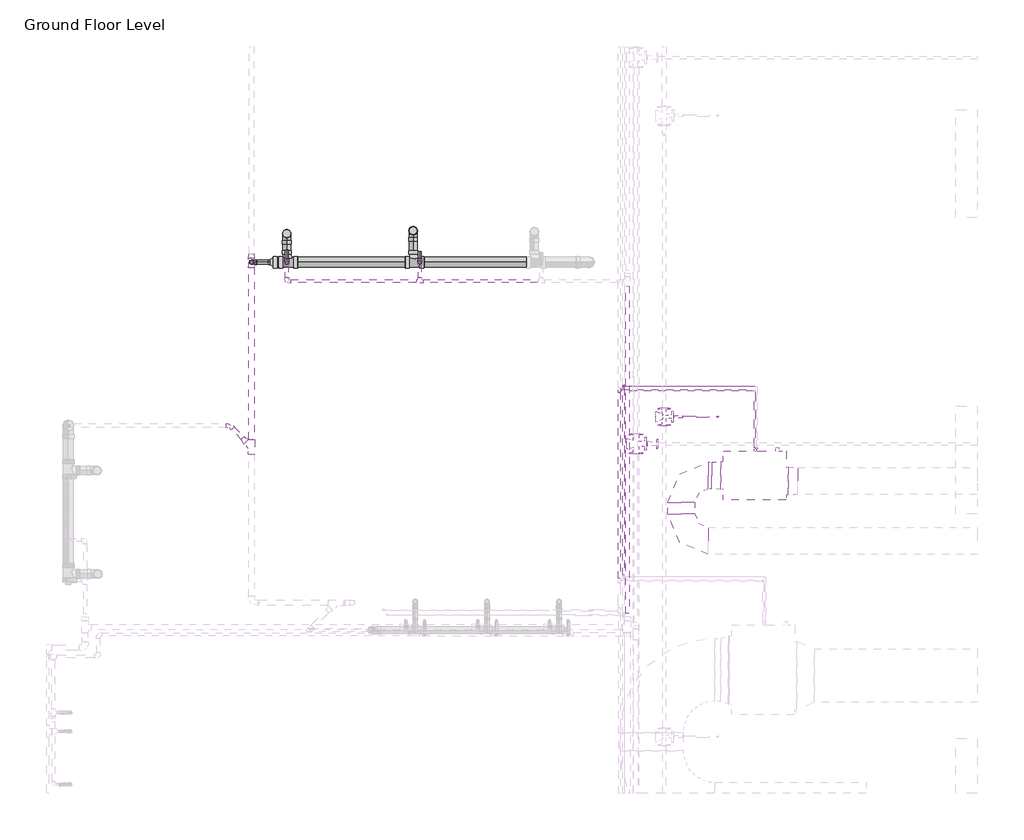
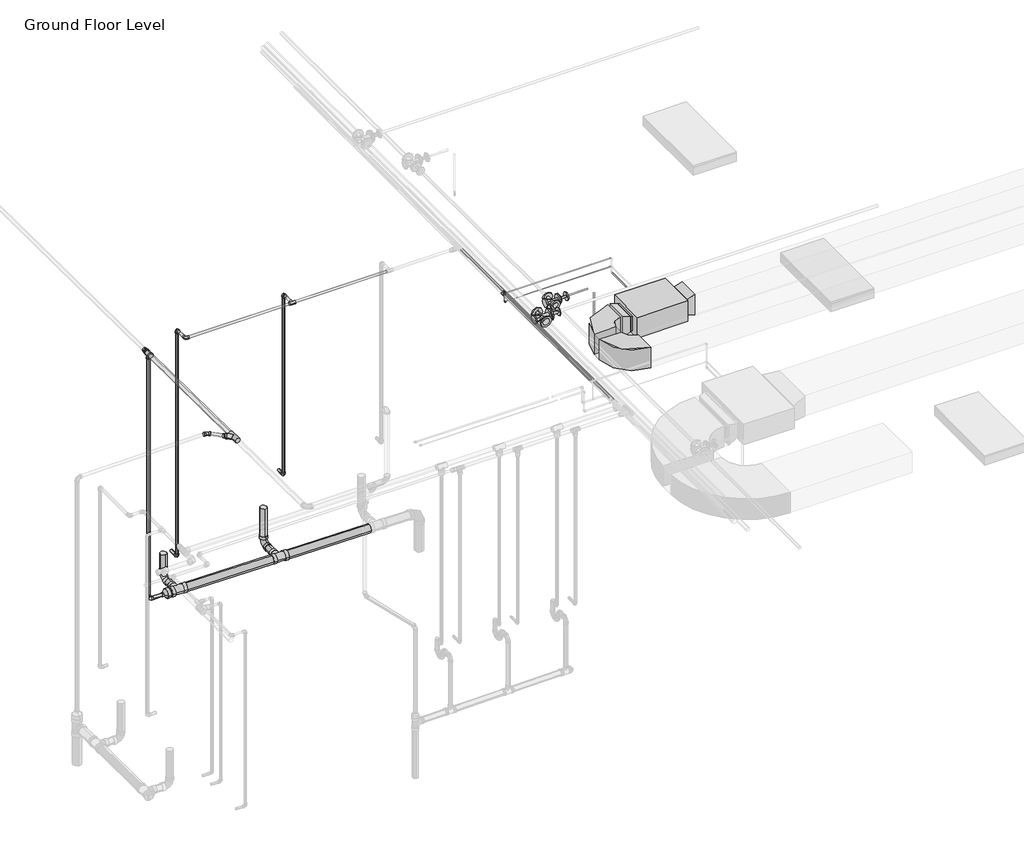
# One storey, part 19 of 66: 29 pipe segments, 26 pipe fittings, 4 duct fittings, 2 duct segments, 1 fire suppression terminal, 1 proxy.
"""IFC4 building model written with IfcOpenShell, lengths in millimetres."""

from ifc_helpers import new_model, si_unit, point, frame, frame_2d, origin, place, context, project, spatial, polyline, circle_curve, trimmed, segment, composite_curve, outline, extrude, transform, mapped, element, save
from components import fcu_daikin_iu_27d020f6, m_rectangular_elbow_radius_1_w_618da153, m_rectangular_transition_angle_45_degree_bfac0661, m_rectangular_transition_angle_45_degree_d4666cfa, m_sprinkler_pendent_15_mm_pendent_06fcbd8e, m_bend_pvc_sch_40_dwv_standard_a4b99d37, m_bend_pvc_sch_40_dwv_standard_877aed9a, m_bend_pvc_sch_40_dwv_standard_980e5ff7, m_elbow_generic_standard_2a704253, m_reducer_flanged_cs_class_150_standard_d42b2106, m_reducer_flanged_cs_class_150_standard_a7631c35, m_reducer_pvc_sch_40_dwv_standard_19331f3d, m_reducer_pvc_sch_40_dwv_standard_230e9924, m_reducer_pvc_sch_40_dwv_standard_312d928c, m_tee_generic_standard_5b2ed4d4, m_tee_generic_standard_5078887e, m_tee_pvc_sch_40_standard_151c2b90, m_tee_reducing_sanitary_pvc_sch_40_dwv_standard_b49161a9, m_tee_reducing_sanitary_pvc_sch_40_dwv_standard_ca98856a, m_tee_round_base_flanged_cs_class_150_standard_dd767e04, m_tee_round_base_flanged_cs_class_150_standard_7e5987a1, m_transition_generic_standard_44e35838, m_transition_generic_standard_2d362458, standard_517a5a8d, standard_72b35c3b, standard_c393d86d

model = new_model("IFC4")

# Units and contexts
model_context = context("Model", 3, world=origin())
ifc_project = project(units=[si_unit("LENGTHUNIT", "METRE", prefix="MILLI")], contexts=[model_context])

# Site, building, storey
site = spatial("IfcSite", under=ifc_project)
building = spatial("IfcBuilding", under=site)
storey = spatial("IfcBuildingStorey", under=building, Name="Ground Floor Level", Elevation=900.0)

# Proxy
placement = place(None, origin())
fcu_daikin_iu_shape = fcu_daikin_iu_27d020f6(model_context)
element("IfcBuildingElementProxy", 1, Name="FCU-DAIKIN IU : 2.3kW, 230V/50Hz/1Ph", ObjectType="FCU-DAIKIN IU : 2.3kW, 230V/50Hz/1Ph", at=placement, inside=storey, context=model_context, shape_type="MappedRepresentation", body=[
    mapped(fcu_daikin_iu_shape, transform((7003.8644074, -31136.6877703, 4080.0), x_axis=(0.0, 1.0, 0.0), y_axis=(-1.0, 0.0, 0.0), z_axis=(0.0, 0.0, 1.0))),
])

# Duct fittings
m_rectangular_elbow_radius_1_w_shape = m_rectangular_elbow_radius_1_w_618da153(model_context)
element("IfcDuctFitting", 2, ObjectType="M_Rectangular Elbow - Radius : 1 W", at=placement, inside=storey, context=model_context, shape_type="MappedRepresentation", body=[
    mapped(m_rectangular_elbow_radius_1_w_shape, transform((6188.4644074, -31136.6877703, 4221.2), x_axis=(-1.0, 0.0, 0.0), y_axis=(0.0, -1.0, 0.0), z_axis=(0.0, 0.0, 1.0))),
])
element("IfcDuctFitting", 3, ObjectType="M_Rectangular Elbow - Radius : 1 W", at=placement, inside=storey, context=model_context, shape_type="MappedRepresentation", body=[
    mapped(m_rectangular_elbow_radius_1_w_shape, transform((6188.4644074, -31864.7846466, 4221.2), x_axis=(0.0, -1.0, 0.0), y_axis=(1.0, 0.0, 0.0), z_axis=(0.0, 0.0, 1.0))),
])
m_rectangular_transition_angle_45_degree_shape = m_rectangular_transition_angle_45_degree_bfac0661(model_context)
element("IfcDuctFitting", 4, ObjectType="M_Rectangular Transition - Angle : 45 Degree", at=placement, inside=storey, context=model_context, shape_type="MappedRepresentation", body=[
    mapped(m_rectangular_transition_angle_45_degree_shape, transform((6628.4644074, -31136.6877703, 4221.2), x_axis=(-1.0, 0.0, 0.0), y_axis=(0.0, -1.0, 0.0), z_axis=(0.0, 0.0, 1.0))),
])
m_rectangular_transition_angle_45_degree_2_shape = m_rectangular_transition_angle_45_degree_d4666cfa(model_context)
element("IfcDuctFitting", 5, ObjectType="M_Rectangular Transition - Angle : 45 Degree", at=placement, inside=storey, context=model_context, shape_type="MappedRepresentation", body=[
    mapped(m_rectangular_transition_angle_45_degree_2_shape, transform((7379.2644074, -31200.1877703, 4245.9125), x_axis=(1.0, 0.0, 0.0), y_axis=(0.0, 1.0, 0.0), z_axis=(0.0, 0.0, 1.0))),
])

# Duct segments
element("IfcDuctSegment", 6, ObjectType="Radius Elbows / Taps", at=placement, inside=storey, context=model_context, shape_type="SweptSolid", body=[
    extrude(outline(polyline([(6525.0153563, -30986.6877703), (6525.0153563, -31286.6877703), (6488.4644074, -31286.6877703), (6488.4644074, -30986.6877703), (6525.0153563, -30986.6877703)])), frame((0.0, 0.0, 4071.2), z_axis=(0.0, 0.0, 1.0), x_axis=(1.0, 0.0, 0.0)), (0.0, 0.0, 1.0), 300.0),
])
element("IfcDuctSegment", 7, ObjectType="Radius Elbows / Taps", at=placement, inside=storey, context=model_context, shape_type="SweptSolid", body=[
    extrude(outline(polyline([(6038.4644074, -31436.6877703), (6338.4644074, -31436.6877703), (6338.4644074, -31564.7846466), (6038.4644074, -31564.7846466), (6038.4644074, -31436.6877703)])), frame((0.0, 0.0, 4071.2), z_axis=(0.0, 0.0, 1.0), x_axis=(1.0, 0.0, 0.0)), (0.0, 0.0, 1.0), 300.0),
])

# Fire suppression terminal
m_sprinkler_pendent_15_mm_pendent_shape = m_sprinkler_pendent_15_mm_pendent_06fcbd8e(model_context)
element("IfcFireSuppressionTerminal", 8, ObjectType="M_Sprinkler - Pendent : 15 mm Pendent", at=placement, inside=storey, context=model_context, shape_type="MappedRepresentation", body=[
    mapped(m_sprinkler_pendent_15_mm_pendent_shape, transform((6592.5481019, -30483.0742399, 3650.0), x_axis=(1.0, 0.0, 0.0), y_axis=(0.0, 1.0, 0.0), z_axis=(0.0, 0.0, 1.0))),
])

# Pipe fittings
m_bend_pvc_sch_40_dwv_standard_shape = m_bend_pvc_sch_40_dwv_standard_a4b99d37(model_context)
element("IfcPipeFitting", 9, ObjectType="M_Bend - PVC - Sch 40 - DWV : Standard", at=placement, inside=storey, context=model_context, shape_type="MappedRepresentation", body=[
    mapped(m_bend_pvc_sch_40_dwv_standard_shape, transform((3203.6056556, -28411.2419494, 467.9903626), x_axis=(0.0, 0.0, -1.0), y_axis=(0.0, -1.0, 0.0), z_axis=(-1.0, 0.0, 0.0))),
])
element("IfcPipeFitting", 10, ObjectType="M_Bend - PVC - Sch 40 - DWV : Standard", at=placement, inside=storey, context=model_context, shape_type="MappedRepresentation", body=[
    mapped(m_bend_pvc_sch_40_dwv_standard_shape, transform((1796.7972875, -28443.3871738, 482.0584463), x_axis=(0.0, 0.0, -1.0), y_axis=(0.0, -1.0, 0.0), z_axis=(-1.0, 0.0, 0.0))),
])
m_bend_pvc_sch_40_dwv_standard_2_shape = m_bend_pvc_sch_40_dwv_standard_877aed9a(model_context)
element("IfcPipeFitting", 11, ObjectType="M_Bend - PVC - Sch 40 - DWV : Standard", at=placement, inside=storey, context=model_context, shape_type="MappedRepresentation", body=[
    mapped(m_bend_pvc_sch_40_dwv_standard_2_shape, transform((1404.8669708, -28761.5689421, 485.9777495), x_axis=(-0.9999500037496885, 0.0, 0.009999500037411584), y_axis=(0.009999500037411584, 0.0, 0.9999500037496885), z_axis=(0.0, 1.0, 0.0))),
])
m_bend_pvc_sch_40_dwv_standard_3_shape = m_bend_pvc_sch_40_dwv_standard_980e5ff7(model_context)
element("IfcPipeFitting", 12, ObjectType="M_Bend - PVC - Sch 40 - DWV : Standard", at=placement, inside=storey, context=model_context, shape_type="MappedRepresentation", body=[
    mapped(m_bend_pvc_sch_40_dwv_standard_3_shape, transform((1167.6346326, -30581.7541446, 4102.0377498), x_axis=(-0.7070204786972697, 0.7069851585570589, -0.017147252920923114), y_axis=(-0.7071225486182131, -0.7070845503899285, 0.0030232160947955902), z_axis=(-0.009987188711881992, 0.014262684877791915, 0.9998484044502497))),
])
m_elbow_generic_standard_shape = m_elbow_generic_standard_2a704253(model_context)
element("IfcPipeFitting", 13, ObjectType="M_Elbow - Generic : Standard", at=placement, inside=storey, context=model_context, shape_type="MappedRepresentation", body=[
    mapped(m_elbow_generic_standard_shape, transform((5543.9904113, -30144.9316538, 4230.8), x_axis=(0.0, 0.0, -1.0), y_axis=(1.0, 0.0, 0.0), z_axis=(0.0, -1.0, 0.0))),
])
m_reducer_flanged_cs_class_150_standard_shape = m_reducer_flanged_cs_class_150_standard_d42b2106(model_context)
element("IfcPipeFitting", 14, ObjectType="M_Reducer - Flanged - CS - Class 150 : Standard", at=placement, inside=storey, context=model_context, shape_type="MappedRepresentation", body=[
    mapped(m_reducer_flanged_cs_class_150_standard_shape, transform((6097.7664057, -30483.0742399, 4291.2754753), x_axis=(1.0, 0.0, 0.0), y_axis=(0.0, 0.0, -1.0), z_axis=(0.0, 1.0, 0.0))),
])
m_reducer_flanged_cs_class_150_standard_2_shape = m_reducer_flanged_cs_class_150_standard_a7631c35(model_context)
element("IfcPipeFitting", 15, ObjectType="M_Reducer - Flanged - CS - Class 150 : Standard", at=placement, inside=storey, context=model_context, shape_type="MappedRepresentation", body=[
    mapped(m_reducer_flanged_cs_class_150_standard_2_shape, transform((5798.6174894, -30785.1783804, 4347.5), x_axis=(1.0, 0.0, 0.0), y_axis=(0.0, 0.0, 1.0), z_axis=(0.0, -1.0, 0.0))),
])
m_reducer_pvc_sch_40_dwv_standard_shape = m_reducer_pvc_sch_40_dwv_standard_19331f3d(model_context)
element("IfcPipeFitting", 16, ObjectType="M_Reducer - PVC - Sch 40 - DWV : Standard", at=placement, inside=storey, context=model_context, shape_type="MappedRepresentation", body=[
    mapped(m_reducer_pvc_sch_40_dwv_standard_shape, transform((1692.863236, -28761.5689421, 483.0977868), x_axis=(-0.9999500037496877, 0.0, 0.00999950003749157), y_axis=(0.0, -1.0000000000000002, 0.0), z_axis=(0.00999950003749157, 0.0, 0.9999500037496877))),
])
m_reducer_pvc_sch_40_dwv_standard_2_shape = m_reducer_pvc_sch_40_dwv_standard_230e9924(model_context)
element("IfcPipeFitting", 17, ObjectType="M_Reducer - PVC - Sch 40 - DWV : Standard", at=placement, inside=storey, context=model_context, shape_type="MappedRepresentation", body=[
    mapped(m_reducer_pvc_sch_40_dwv_standard_2_shape, transform((1404.8829692, -28664.0719039, 4086.0016836), x_axis=(0.0, -0.9999500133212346, 0.00999854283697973), y_axis=(1.0, 0.0, 0.0), z_axis=(0.0, 0.00999854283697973, 0.9999500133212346))),
])
m_reducer_pvc_sch_40_dwv_standard_3_shape = m_reducer_pvc_sch_40_dwv_standard_312d928c(model_context)
element("IfcPipeFitting", 18, ObjectType="M_Reducer - PVC - Sch 40 - DWV : Standard", at=placement, inside=storey, context=model_context, shape_type="MappedRepresentation", body=[
    mapped(m_reducer_pvc_sch_40_dwv_standard_3_shape, transform((1345.2677086, -30759.3781518, 4106.4029379), x_axis=(-0.7070174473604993, 0.7069881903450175, -0.017147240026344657), y_axis=(-0.7070524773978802, -0.7071546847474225, -0.003007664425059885), z_axis=(-0.014252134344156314, 0.009997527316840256, 0.9998484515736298))),
])
m_tee_generic_standard_shape = m_tee_generic_standard_5b2ed4d4(model_context)
element("IfcPipeFitting", 19, ObjectType="M_Tee - Generic : Standard", at=placement, inside=storey, context=model_context, shape_type="MappedRepresentation", body=[
    mapped(m_tee_generic_standard_shape, transform((5543.9904113, -30144.9316538, 4377.5), x_axis=(0.0, -1.0, 0.0), y_axis=(0.0, 0.0, 1.0), z_axis=(-1.0, 0.0, 0.0))),
])
m_tee_generic_standard_2_shape = m_tee_generic_standard_5078887e(model_context)
element("IfcPipeFitting", 20, ObjectType="M_Tee - Generic : Standard", at=placement, inside=storey, context=model_context, shape_type="MappedRepresentation", body=[
    mapped(m_tee_generic_standard_2_shape, transform((5497.8951827, -30187.4513653, 4390.0), x_axis=(0.0, -1.0, 0.0), y_axis=(-1.0, 0.0, 0.0), z_axis=(0.0, 0.0, -1.0))),
])
m_tee_pvc_sch_40_standard_shape = m_tee_pvc_sch_40_standard_151c2b90(model_context)
element("IfcPipeFitting", 21, ObjectType="M_Tee - PVC - Sch 40 : Standard", at=placement, inside=storey, context=model_context, shape_type="MappedRepresentation", body=[
    mapped(m_tee_pvc_sch_40_standard_shape, transform((1404.8829692, -30818.9909454, 4107.8487823), x_axis=(0.0, -0.9999500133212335, 0.009998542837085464), y_axis=(0.9998984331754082, 0.0001425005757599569, 0.014251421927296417), z_axis=(-0.014252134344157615, 0.009997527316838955, 0.9998484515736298))),
])
m_tee_reducing_sanitary_pvc_sch_40_dwv_standard_shape = m_tee_reducing_sanitary_pvc_sch_40_dwv_standard_b49161a9(model_context)
element("IfcPipeFitting", 22, ObjectType="M_Tee Reducing Sanitary - PVC - Sch 40 - DWV : Standard", at=placement, inside=storey, context=model_context, shape_type="MappedRepresentation", body=[
    mapped(m_tee_reducing_sanitary_pvc_sch_40_dwv_standard_shape, transform((3203.6056556, -28761.5689421, 467.9903626), x_axis=(-0.9999500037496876, 0.0, 0.00999950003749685), y_axis=(0.0, -1.0, 0.0), z_axis=(0.00999950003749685, 0.0, 0.9999500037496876))),
])
element("IfcPipeFitting", 23, ObjectType="M_Tee Reducing Sanitary - PVC - Sch 40 - DWV : Standard", at=placement, inside=storey, context=model_context, shape_type="MappedRepresentation", body=[
    mapped(m_tee_reducing_sanitary_pvc_sch_40_dwv_standard_shape, transform((1796.7972875, -28761.5689421, 482.0584463), x_axis=(-0.9999500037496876, 0.0, 0.009999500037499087), y_axis=(0.0, -1.0000000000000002, 0.0), z_axis=(0.009999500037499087, 0.0, 0.9999500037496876))),
])
m_tee_reducing_sanitary_pvc_sch_40_dwv_standard_2_shape = m_tee_reducing_sanitary_pvc_sch_40_dwv_standard_ca98856a(model_context)
element("IfcPipeFitting", 24, ObjectType="M_Tee Reducing Sanitary - PVC - Sch 40 - DWV : Standard", at=placement, inside=storey, context=model_context, shape_type="MappedRepresentation", body=[
    mapped(m_tee_reducing_sanitary_pvc_sch_40_dwv_standard_2_shape, transform((1404.8829692, -28761.5849374, 4087.2766918), x_axis=(0.0, 0.9999500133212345, -0.009998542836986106), y_axis=(0.0, 0.009998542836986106, 0.9999500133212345), z_axis=(1.0, 0.0, 0.0))),
])
m_tee_round_base_flanged_cs_class_150_standard_shape = m_tee_round_base_flanged_cs_class_150_standard_dd767e04(model_context)
element("IfcPipeFitting", 25, ObjectType="M_Tee Round Base - Flanged - CS - Class 150 : Standard", at=placement, inside=storey, context=model_context, shape_type="MappedRepresentation", body=[
    mapped(m_tee_round_base_flanged_cs_class_150_standard_shape, transform((5684.6174894, -30785.1783804, 4347.5), x_axis=(0.0, -1.0, 0.0), y_axis=(-1.0, 0.0, 0.0), z_axis=(0.0, 0.0, -1.0))),
])
m_tee_round_base_flanged_cs_class_150_standard_2_shape = m_tee_round_base_flanged_cs_class_150_standard_7e5987a1(model_context)
element("IfcPipeFitting", 26, ObjectType="M_Tee Round Base - Flanged - CS - Class 150 : Standard", at=placement, inside=storey, context=model_context, shape_type="MappedRepresentation", body=[
    mapped(m_tee_round_base_flanged_cs_class_150_standard_2_shape, transform((5997.057812, -30483.0742399, 4291.0943441), x_axis=(0.0, 1.0, 0.0), y_axis=(-1.0, 0.0, 0.0), z_axis=(0.0, 0.0, 1.0))),
])
m_transition_generic_standard_shape = m_transition_generic_standard_44e35838(model_context)
element("IfcPipeFitting", 27, ObjectType="M_Transition - Generic : Standard", at=placement, inside=storey, context=model_context, shape_type="MappedRepresentation", body=[
    mapped(m_transition_generic_standard_shape, transform((5521.7076827, -30187.4513653, 4390.0), x_axis=(1.0, 0.0, 0.0), y_axis=(0.0, 1.0, 0.0), z_axis=(0.0, 0.0, 1.0))),
])
m_transition_generic_standard_2_shape = m_transition_generic_standard_2d362458(model_context)
element("IfcPipeFitting", 28, ObjectType="M_Transition - Generic : Standard", at=placement, inside=storey, context=model_context, shape_type="MappedRepresentation", body=[
    mapped(m_transition_generic_standard_2_shape, transform((5543.9904113, -30144.9316538, 4356.8625), x_axis=(0.0, 0.0, -1.0), y_axis=(1.0, 0.0, 0.0), z_axis=(0.0, -1.0, 0.0))),
])
standard_shape = standard_517a5a8d(model_context)
element("IfcPipeFitting", 29, ObjectType="M_Elbow - CPVC - Sch 40 : Standard", at=placement, inside=storey, context=model_context, shape_type="MappedRepresentation", body=[
    mapped(standard_shape, transform((3277.0059257, -28764.7846466, 1655.0), x_axis=(0.0, -1.0, 0.0), y_axis=(0.0, 0.0, 1.0), z_axis=(-1.0, 0.0, 0.0))),
])
element("IfcPipeFitting", 30, ObjectType="M_Elbow - CPVC - Sch 40 : Standard", at=placement, inside=storey, context=model_context, shape_type="MappedRepresentation", body=[
    mapped(standard_shape, transform((3277.0059257, -28764.7846466, 4300.0), x_axis=(0.0, 0.0, 1.0), y_axis=(0.0, -1.0, 0.0), z_axis=(1.0, 0.0, 0.0))),
])
element("IfcPipeFitting", 31, ObjectType="M_Elbow - CPVC - Sch 40 : Standard", at=placement, inside=storey, context=model_context, shape_type="MappedRepresentation", body=[
    mapped(standard_shape, transform((1796.7587914, -28974.7846466, 4300.0), x_axis=(0.0, -1.0, 0.0), y_axis=(1.0, 0.0, 0.0), z_axis=(0.0, 0.0, 1.0))),
])
element("IfcPipeFitting", 32, ObjectType="M_Elbow - CPVC - Sch 40 : Standard", at=placement, inside=storey, context=model_context, shape_type="MappedRepresentation", body=[
    mapped(standard_shape, transform((1796.7587914, -28769.5558494, 4300.0), x_axis=(0.0, 0.0, 1.0), y_axis=(0.0, -1.0, 0.0), z_axis=(1.0, 0.0, 0.0))),
])
standard_2_shape = standard_72b35c3b(model_context)
element("IfcPipeFitting", 33, ObjectType="M_Tee - CPVC - Sch 40 : Standard", at=placement, inside=storey, context=model_context, shape_type="MappedRepresentation", body=[
    mapped(standard_2_shape, transform((3277.0059257, -28974.7846466, 4300.0), x_axis=(1.0, 0.0, 0.0), y_axis=(0.0, -1.0, 0.0), z_axis=(0.0, 0.0, -1.0))),
])
standard_3_shape = standard_c393d86d(model_context)
element("IfcPipeFitting", 34, ObjectType="M_Elbow - CPVC - Sch 40 : Standard", at=placement, inside=storey, context=model_context, shape_type="MappedRepresentation", body=[
    mapped(standard_3_shape, transform((1796.7587914, -28769.5558494, 983.5), x_axis=(0.0, -0.9999999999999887, 1.506625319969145e-07), y_axis=(0.0, 1.506625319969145e-07, 0.9999999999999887), z_axis=(-1.0, 0.0, 0.0))),
])

# Pipe segments
element("IfcPipeSegment", 35, ObjectType="CPVC", at=placement, inside=storey, context=model_context, shape_type="SweptSolid", body=[
    extrude(outline(composite_curve([segment(trimmed(circle_curve(frame_2d((-28974.7846466, 4300.0)), 16.7005), [point((-28958.0841466, 4300.0))], [point((-28974.7846466, 4283.2995))], False, "CARTESIAN"), True, "CONTINUOUS"), segment(trimmed(circle_curve(frame_2d((-28974.7846466, 4300.0)), 16.7005), [point((-28974.7846466, 4283.2995))], [point((-28991.4851466, 4300.0))], False, "CARTESIAN"), True, "CONTINUOUS"), segment(trimmed(circle_curve(frame_2d((-28974.7846466, 4300.0)), 16.7005), [point((-28991.4851466, 4300.0))], [point((-28974.7846466, 4316.7005))], False, "CARTESIAN"), True, "CONTINUOUS"), segment(trimmed(circle_curve(frame_2d((-28974.7846466, 4300.0)), 16.7005), [point((-28974.7846466, 4316.7005))], [point((-28958.0841466, 4300.0))], False, "CARTESIAN"), True, "CONTINUOUS")], self_intersect=False)), frame((1840.0213414, 0.0, 0.0), z_axis=(1.0, 0.0, 0.0), x_axis=(0.0, 1.0, 0.0)), (0.0, 0.0, 1.0), 1397.2843843),
])
element("IfcPipeSegment", 36, ObjectType="CPVC", at=placement, inside=storey, context=model_context, shape_type="SweptSolid", body=[
    extrude(outline(composite_curve([segment(trimmed(circle_curve(frame_2d((1655.0, 3277.0059257)), 16.7005), [point((1655.0, 3260.3054257))], [point((1638.2995, 3277.0059257))], False, "CARTESIAN"), True, "CONTINUOUS"), segment(trimmed(circle_curve(frame_2d((1655.0, 3277.0059257)), 16.7005), [point((1638.2995, 3277.0059257))], [point((1655.0, 3293.7064257))], False, "CARTESIAN"), True, "CONTINUOUS"), segment(trimmed(circle_curve(frame_2d((1655.0, 3277.0059257)), 16.7005), [point((1655.0, 3293.7064257))], [point((1671.7005, 3277.0059257))], False, "CARTESIAN"), True, "CONTINUOUS"), segment(trimmed(circle_curve(frame_2d((1655.0, 3277.0059257)), 16.7005), [point((1671.7005, 3277.0059257))], [point((1655.0, 3260.3054257))], False, "CARTESIAN"), True, "CONTINUOUS")], self_intersect=False)), frame((0.0, -28721.5220966, 0.0), z_axis=(0.0, 1.0, 0.0), x_axis=(0.0, 0.0, 1.0)), (0.0, 0.0, 1.0), 76.73745),
])
element("IfcPipeSegment", 37, ObjectType="CPVC", at=placement, inside=storey, context=model_context, shape_type="SweptSolid", body=[
    extrude(outline(composite_curve([segment(trimmed(circle_curve(frame_2d((4300.0, 3277.0059257)), 16.7005), [point((4300.0, 3293.7064257))], [point((4316.7005, 3277.0059257))], False, "CARTESIAN"), True, "CONTINUOUS"), segment(trimmed(circle_curve(frame_2d((4300.0, 3277.0059257)), 16.7005), [point((4316.7005, 3277.0059257))], [point((4300.0, 3260.3054257))], False, "CARTESIAN"), True, "CONTINUOUS"), segment(trimmed(circle_curve(frame_2d((4300.0, 3277.0059257)), 16.7005), [point((4300.0, 3260.3054257))], [point((4283.2995, 3277.0059257))], False, "CARTESIAN"), True, "CONTINUOUS"), segment(trimmed(circle_curve(frame_2d((4300.0, 3277.0059257)), 16.7005), [point((4283.2995, 3277.0059257))], [point((4300.0, 3293.7064257))], False, "CARTESIAN"), True, "CONTINUOUS")], self_intersect=False)), frame((0.0, -28935.0844466, 0.0), z_axis=(0.0, 1.0, 0.0), x_axis=(0.0, 0.0, 1.0)), (0.0, 0.0, 1.0), 127.03725),
])
element("IfcPipeSegment", 38, ObjectType="CPVC", at=placement, inside=storey, context=model_context, shape_type="SweptSolid", body=[
    extrude(outline(composite_curve([segment(trimmed(circle_curve(frame_2d((3277.0059257, -28764.7846466)), 16.7005), [point((3260.3054257, -28764.7846466))], [point((3277.0059257, -28748.0841466))], False, "CARTESIAN"), True, "CONTINUOUS"), segment(trimmed(circle_curve(frame_2d((3277.0059257, -28764.7846466)), 16.7005), [point((3277.0059257, -28748.0841466))], [point((3293.7064257, -28764.7846466))], False, "CARTESIAN"), True, "CONTINUOUS"), segment(trimmed(circle_curve(frame_2d((3277.0059257, -28764.7846466)), 16.7005), [point((3293.7064257, -28764.7846466))], [point((3277.0059257, -28781.4851466))], False, "CARTESIAN"), True, "CONTINUOUS"), segment(trimmed(circle_curve(frame_2d((3277.0059257, -28764.7846466)), 16.7005), [point((3277.0059257, -28781.4851466))], [point((3260.3054257, -28764.7846466))], False, "CARTESIAN"), True, "CONTINUOUS")], self_intersect=False)), frame((0.0, 0.0, 1698.26255), z_axis=(0.0, 0.0, 1.0), x_axis=(1.0, 0.0, 0.0)), (0.0, 0.0, 1.0), 2558.4749),
])
element("IfcPipeSegment", 39, ObjectType="CPVC", at=placement, inside=storey, context=model_context, shape_type="SweptSolid", body=[
    extrude(outline(composite_curve([segment(trimmed(circle_curve(frame_2d((-28974.7846466, 4300.0)), 16.7005), [point((-28958.0841466, 4300.0))], [point((-28974.7846466, 4283.2995))], False, "CARTESIAN"), True, "CONTINUOUS"), segment(trimmed(circle_curve(frame_2d((-28974.7846466, 4300.0)), 16.7005), [point((-28974.7846466, 4283.2995))], [point((-28991.4851466, 4300.0))], False, "CARTESIAN"), True, "CONTINUOUS"), segment(trimmed(circle_curve(frame_2d((-28974.7846466, 4300.0)), 16.7005), [point((-28991.4851466, 4300.0))], [point((-28974.7846466, 4316.7005))], False, "CARTESIAN"), True, "CONTINUOUS"), segment(trimmed(circle_curve(frame_2d((-28974.7846466, 4300.0)), 16.7005), [point((-28974.7846466, 4316.7005))], [point((-28958.0841466, 4300.0))], False, "CARTESIAN"), True, "CONTINUOUS")], self_intersect=False)), frame((3316.7061257, 0.0, 0.0), z_axis=(1.0, 0.0, 0.0), x_axis=(0.0, 1.0, 0.0)), (0.0, 0.0, 1.0), 1270.7089625),
])
element("IfcPipeSegment", 40, ObjectType="CPVC", at=placement, inside=storey, context=model_context, shape_type="SweptSolid", body=[
    extrude(outline(composite_curve([segment(trimmed(circle_curve(frame_2d((983.4999789, 1796.7587914)), 16.7005), [point((983.4999789, 1780.0582914))], [point((966.7994789, 1796.7587914))], False, "CARTESIAN"), True, "CONTINUOUS"), segment(trimmed(circle_curve(frame_2d((983.4999789, 1796.7587914)), 16.7005), [point((966.7994789, 1796.7587914))], [point((983.4999789, 1813.4592914))], False, "CARTESIAN"), True, "CONTINUOUS"), segment(trimmed(circle_curve(frame_2d((983.4999789, 1796.7587914)), 16.7005), [point((983.4999789, 1813.4592914))], [point((1000.2004789, 1796.7587914))], False, "CARTESIAN"), True, "CONTINUOUS"), segment(trimmed(circle_curve(frame_2d((983.4999789, 1796.7587914)), 16.7005), [point((1000.2004789, 1796.7587914))], [point((983.4999789, 1780.0582914))], False, "CARTESIAN"), True, "CONTINUOUS")], self_intersect=False)), frame((0.0, -28726.2933025, 0.0), z_axis=(0.0, 1.0, 0.0), x_axis=(0.0, 0.0, 1.0)), (0.0, 0.0, 1.0), 96.7374532),
])
element("IfcPipeSegment", 41, ObjectType="CPVC", at=placement, inside=storey, context=model_context, shape_type="SweptSolid", body=[
    extrude(outline(composite_curve([segment(trimmed(circle_curve(frame_2d((4300.0, 1796.7587914)), 16.7005), [point((4300.0, 1813.4592914))], [point((4316.7005, 1796.7587914))], False, "CARTESIAN"), True, "CONTINUOUS"), segment(trimmed(circle_curve(frame_2d((4300.0, 1796.7587914)), 16.7005), [point((4316.7005, 1796.7587914))], [point((4300.0, 1780.0582914))], False, "CARTESIAN"), True, "CONTINUOUS"), segment(trimmed(circle_curve(frame_2d((4300.0, 1796.7587914)), 16.7005), [point((4300.0, 1780.0582914))], [point((4283.2995, 1796.7587914))], False, "CARTESIAN"), True, "CONTINUOUS"), segment(trimmed(circle_curve(frame_2d((4300.0, 1796.7587914)), 16.7005), [point((4283.2995, 1796.7587914))], [point((4300.0, 1813.4592914))], False, "CARTESIAN"), True, "CONTINUOUS")], self_intersect=False)), frame((0.0, -28931.5220966, 0.0), z_axis=(0.0, 1.0, 0.0), x_axis=(0.0, 0.0, 1.0)), (0.0, 0.0, 1.0), 118.7036973),
])
element("IfcPipeSegment", 42, ObjectType="CPVC", at=placement, inside=storey, context=model_context, shape_type="SweptSolid", body=[
    extrude(outline(composite_curve([segment(trimmed(circle_curve(frame_2d((1796.7587914, -28769.5558494)), 16.7005), [point((1780.0582914, -28769.5558494))], [point((1796.7587914, -28752.8553494))], False, "CARTESIAN"), True, "CONTINUOUS"), segment(trimmed(circle_curve(frame_2d((1796.7587914, -28769.5558494)), 16.7005), [point((1796.7587914, -28752.8553494))], [point((1813.4592914, -28769.5558494))], False, "CARTESIAN"), True, "CONTINUOUS"), segment(trimmed(circle_curve(frame_2d((1796.7587914, -28769.5558494)), 16.7005), [point((1813.4592914, -28769.5558494))], [point((1796.7587914, -28786.2563494))], False, "CARTESIAN"), True, "CONTINUOUS"), segment(trimmed(circle_curve(frame_2d((1796.7587914, -28769.5558494)), 16.7005), [point((1796.7587914, -28786.2563494))], [point((1780.0582914, -28769.5558494))], False, "CARTESIAN"), True, "CONTINUOUS")], self_intersect=False)), frame((0.0, 0.0, 1026.7625468), z_axis=(0.0, 0.0, 1.0), x_axis=(1.0, 0.0, 0.0)), (0.0, 0.0, 1.0), 3229.9749032),
])
element("IfcPipeSegment", 43, ObjectType="CPVC", at=placement, inside=storey, context=model_context, shape_type="SweptSolid", body=[
    extrude(outline(composite_curve([segment(trimmed(circle_curve(frame_2d((4300.0, 5589.646628)), 21.082), [point((4300.0, 5568.564628))], [point((4278.918, 5589.646628))], False, "CARTESIAN"), True, "CONTINUOUS"), segment(trimmed(circle_curve(frame_2d((4300.0, 5589.646628)), 21.082), [point((4278.918, 5589.646628))], [point((4300.0, 5610.728628))], False, "CARTESIAN"), True, "CONTINUOUS"), segment(trimmed(circle_curve(frame_2d((4300.0, 5589.646628)), 21.082), [point((4300.0, 5610.728628))], [point((4321.082, 5589.646628))], False, "CARTESIAN"), True, "CONTINUOUS"), segment(trimmed(circle_curve(frame_2d((4300.0, 5589.646628)), 21.082), [point((4321.082, 5589.646628))], [point((4300.0, 5568.564628))], False, "CARTESIAN"), True, "CONTINUOUS")], self_intersect=False)), frame((0.0, -32672.9715951, 0.0), z_axis=(0.0, 1.0, 0.0), x_axis=(0.0, 0.0, 1.0)), (0.0, 0.0, 1.0), 3644.2119485),
])
element("IfcPipeSegment", 44, ObjectType="Copper", at=placement, inside=storey, context=model_context, shape_type="SweptSolid", body=[
    extrude(outline(composite_curve([segment(trimmed(circle_curve(frame_2d((-30187.4513653, 4390.0)), 6.5), [point((-30193.9513653, 4390.0))], [point((-30187.4513653, 4396.5))], False, "CARTESIAN"), True, "CONTINUOUS"), segment(trimmed(circle_curve(frame_2d((-30187.4513653, 4390.0)), 6.5), [point((-30187.4513653, 4396.5))], [point((-30180.9513653, 4390.0))], False, "CARTESIAN"), True, "CONTINUOUS"), segment(trimmed(circle_curve(frame_2d((-30187.4513653, 4390.0)), 6.5), [point((-30180.9513653, 4390.0))], [point((-30187.4513653, 4383.5))], False, "CARTESIAN"), True, "CONTINUOUS"), segment(trimmed(circle_curve(frame_2d((-30187.4513653, 4390.0)), 6.5), [point((-30187.4513653, 4383.5))], [point((-30193.9513653, 4390.0))], False, "CARTESIAN"), True, "CONTINUOUS")], self_intersect=False)), frame((5527.2639327, 0.0, 0.0), z_axis=(1.0, 0.0, 0.0), x_axis=(0.0, 1.0, 0.0)), (0.0, 0.0, 1.0), 1462.3129748),
])
element("IfcPipeSegment", 45, ObjectType="Copper", at=placement, inside=storey, context=model_context, shape_type="SweptSolid", body=[
    extrude(outline(composite_curve([segment(trimmed(circle_curve(frame_2d((4390.0, 5497.8951827)), 9.75), [point((4390.0, 5507.6451827))], [point((4399.75, 5497.8951827))], False, "CARTESIAN"), True, "CONTINUOUS"), segment(trimmed(circle_curve(frame_2d((4390.0, 5497.8951827)), 9.75), [point((4399.75, 5497.8951827))], [point((4390.0, 5488.1451827))], False, "CARTESIAN"), True, "CONTINUOUS"), segment(trimmed(circle_curve(frame_2d((4390.0, 5497.8951827)), 9.75), [point((4390.0, 5488.1451827))], [point((4380.25, 5497.8951827))], False, "CARTESIAN"), True, "CONTINUOUS"), segment(trimmed(circle_curve(frame_2d((4390.0, 5497.8951827)), 9.75), [point((4380.25, 5497.8951827))], [point((4390.0, 5507.6451827))], False, "CARTESIAN"), True, "CONTINUOUS")], self_intersect=False)), frame((0.0, -32283.6388653, 0.0), z_axis=(0.0, 1.0, 0.0), x_axis=(0.0, 0.0, 1.0)), (0.0, 0.0, 1.0), 2072.375),
])
element("IfcPipeSegment", 46, ObjectType="Copper", at=placement, inside=storey, context=model_context, shape_type="SweptSolid", body=[
    extrude(outline(composite_curve([segment(trimmed(circle_curve(frame_2d((4180.0, 7003.8644074)), 6.5), [point((4180.0, 6997.3644074))], [point((4173.5, 7003.8644074))], False, "CARTESIAN"), True, "CONTINUOUS"), segment(trimmed(circle_curve(frame_2d((4180.0, 7003.8644074)), 6.5), [point((4173.5, 7003.8644074))], [point((4180.0, 7010.3644074))], False, "CARTESIAN"), True, "CONTINUOUS"), segment(trimmed(circle_curve(frame_2d((4180.0, 7003.8644074)), 6.5), [point((4180.0, 7010.3644074))], [point((4186.5, 7003.8644074))], False, "CARTESIAN"), True, "CONTINUOUS"), segment(trimmed(circle_curve(frame_2d((4180.0, 7003.8644074)), 6.5), [point((4186.5, 7003.8644074))], [point((4180.0, 6997.3644074))], False, "CARTESIAN"), True, "CONTINUOUS")], self_intersect=False)), frame((0.0, -30823.5877703, 0.0), z_axis=(0.0, 1.0, 0.0), x_axis=(0.0, 0.0, 1.0)), (0.0, 0.0, 1.0), 621.8489049),
])
element("IfcPipeSegment", 47, ObjectType="Copper", at=placement, inside=storey, context=model_context, shape_type="SweptSolid", body=[
    extrude(outline(composite_curve([segment(trimmed(circle_curve(frame_2d((4377.5, 5543.9904113)), 6.5), [point((4377.5, 5550.4904113))], [point((4384.0, 5543.9904113))], False, "CARTESIAN"), True, "CONTINUOUS"), segment(trimmed(circle_curve(frame_2d((4377.5, 5543.9904113)), 6.5), [point((4384.0, 5543.9904113))], [point((4377.5, 5537.4904113))], False, "CARTESIAN"), True, "CONTINUOUS"), segment(trimmed(circle_curve(frame_2d((4377.5, 5543.9904113)), 6.5), [point((4377.5, 5537.4904113))], [point((4371.0, 5543.9904113))], False, "CARTESIAN"), True, "CONTINUOUS"), segment(trimmed(circle_curve(frame_2d((4377.5, 5543.9904113)), 6.5), [point((4371.0, 5543.9904113))], [point((4377.5, 5550.4904113))], False, "CARTESIAN"), True, "CONTINUOUS")], self_intersect=False)), frame((0.0, -32244.2941538, 0.0), z_axis=(0.0, 1.0, 0.0), x_axis=(0.0, 0.0, 1.0)), (0.0, 0.0, 1.0), 2078.725),
])
element("IfcPipeSegment", 48, ObjectType="Copper", at=placement, inside=storey, context=model_context, shape_type="SweptSolid", body=[
    extrude(outline(composite_curve([segment(trimmed(circle_curve(frame_2d((5543.9904113, -30144.9316538)), 3.35), [point((5547.3404113, -30144.9316538))], [point((5543.9904113, -30148.2816538))], False, "CARTESIAN"), True, "CONTINUOUS"), segment(trimmed(circle_curve(frame_2d((5543.9904113, -30144.9316538)), 3.35), [point((5543.9904113, -30148.2816538))], [point((5540.6404113, -30144.9316538))], False, "CARTESIAN"), True, "CONTINUOUS"), segment(trimmed(circle_curve(frame_2d((5543.9904113, -30144.9316538)), 3.35), [point((5540.6404113, -30144.9316538))], [point((5543.9904113, -30141.5816538))], False, "CARTESIAN"), True, "CONTINUOUS"), segment(trimmed(circle_curve(frame_2d((5543.9904113, -30144.9316538)), 3.35), [point((5543.9904113, -30141.5816538))], [point((5547.3404113, -30144.9316538))], False, "CARTESIAN"), True, "CONTINUOUS")], self_intersect=False)), frame((0.0, 0.0, 4241.9375), z_axis=(0.0, 0.0, 1.0), x_axis=(1.0, 0.0, 0.0)), (0.0, 0.0, 1.0), 110.95625),
])
element("IfcPipeSegment", 49, ObjectType="Copper", at=placement, inside=storey, context=model_context, shape_type="SweptSolid", body=[
    extrude(outline(composite_curve([segment(trimmed(circle_curve(frame_2d((-30144.9316538, 4230.8)), 3.35), [point((-30148.2816538, 4230.8))], [point((-30144.9316538, 4234.15))], False, "CARTESIAN"), True, "CONTINUOUS"), segment(trimmed(circle_curve(frame_2d((-30144.9316538, 4230.8)), 3.35), [point((-30144.9316538, 4234.15))], [point((-30141.5816538, 4230.8))], False, "CARTESIAN"), True, "CONTINUOUS"), segment(trimmed(circle_curve(frame_2d((-30144.9316538, 4230.8)), 3.35), [point((-30141.5816538, 4230.8))], [point((-30144.9316538, 4227.45))], False, "CARTESIAN"), True, "CONTINUOUS"), segment(trimmed(circle_curve(frame_2d((-30144.9316538, 4230.8)), 3.35), [point((-30144.9316538, 4227.45))], [point((-30148.2816538, 4230.8))], False, "CARTESIAN"), True, "CONTINUOUS")], self_intersect=False)), frame((5555.1279113, 0.0, 0.0), z_axis=(1.0, 0.0, 0.0), x_axis=(0.0, 1.0, 0.0)), (0.0, 0.0, 1.0), 1462.5989961),
])
element("IfcPipeSegment", 50, ObjectType="PVC - DWV", at=placement, inside=storey, context=model_context, shape_type="SweptSolid", body=[
    extrude(outline(composite_curve([segment(trimmed(circle_curve(frame_2d((0.0, -44.45)), 44.45), [point((-44.45, -44.45))], [point((0.0, 0.0))], False, "CARTESIAN"), True, "CONTINUOUS"), segment(trimmed(circle_curve(frame_2d((0.0, -44.45)), 44.45), [point((0.0, 0.0))], [point((44.45, -44.45))], False, "CARTESIAN"), True, "CONTINUOUS"), segment(trimmed(circle_curve(frame_2d((0.0, -44.45)), 44.45), [point((44.45, -44.45))], [point((0.0, -88.9))], False, "CARTESIAN"), True, "CONTINUOUS"), segment(trimmed(circle_curve(frame_2d((0.0, -44.45)), 44.45), [point((0.0, -88.9))], [point((-44.45, -44.45))], False, "CARTESIAN"), True, "CONTINUOUS")], self_intersect=False)), frame((3203.6056556, -28455.6919494, 583.8905626), z_axis=(-1.1079649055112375e-05, 0.0, 0.9999999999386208), x_axis=(-0.9999999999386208, 0.0, -1.1079649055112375e-05)), (0.0, 0.0, 1.0), 406.1094374),
])
element("IfcPipeSegment", 51, ObjectType="PVC - DWV", at=placement, inside=storey, context=model_context, shape_type="SweptSolid", body=[
    extrude(outline(composite_curve([segment(trimmed(circle_curve(frame_2d((467.9903626, 3203.6056556)), 44.45), [point((467.9903626, 3159.1556556))], [point((423.5403626, 3203.6056556))], False, "CARTESIAN"), True, "CONTINUOUS"), segment(trimmed(circle_curve(frame_2d((467.9903626, 3203.6056556)), 44.45), [point((423.5403626, 3203.6056556))], [point((467.9903626, 3248.0556556))], False, "CARTESIAN"), True, "CONTINUOUS"), segment(trimmed(circle_curve(frame_2d((467.9903626, 3203.6056556)), 44.45), [point((467.9903626, 3248.0556556))], [point((512.4403626, 3203.6056556))], False, "CARTESIAN"), True, "CONTINUOUS"), segment(trimmed(circle_curve(frame_2d((467.9903626, 3203.6056556)), 44.45), [point((512.4403626, 3203.6056556))], [point((467.9903626, 3159.1556556))], False, "CARTESIAN"), True, "CONTINUOUS")], self_intersect=False)), frame((0.0, -28632.9687421, 0.0), z_axis=(0.0, 1.0, 0.0), x_axis=(0.0, 0.0, 1.0)), (0.0, 0.0, 1.0), 105.8265928),
])
element("IfcPipeSegment", 52, ObjectType="PVC - DWV", at=placement, inside=storey, context=model_context, shape_type="SweptSolid", body=[
    extrude(outline(composite_curve([segment(trimmed(circle_curve(frame_2d((0.0, -44.45)), 44.45), [point((-44.45, -44.45))], [point((0.0, 0.0))], False, "CARTESIAN"), True, "CONTINUOUS"), segment(trimmed(circle_curve(frame_2d((0.0, -44.45)), 44.45), [point((0.0, 0.0))], [point((44.45, -44.45))], False, "CARTESIAN"), True, "CONTINUOUS"), segment(trimmed(circle_curve(frame_2d((0.0, -44.45)), 44.45), [point((44.45, -44.45))], [point((0.0, -88.9))], False, "CARTESIAN"), True, "CONTINUOUS"), segment(trimmed(circle_curve(frame_2d((0.0, -44.45)), 44.45), [point((0.0, -88.9))], [point((-44.45, -44.45))], False, "CARTESIAN"), True, "CONTINUOUS")], self_intersect=False)), frame((1796.7972875, -28487.8371738, 597.9586463), z_axis=(-1.9335461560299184e-05, 0.0, 0.99999999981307), x_axis=(-0.99999999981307, 0.0, -1.9335461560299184e-05)), (0.0, 0.0, 1.0), 232.7097303),
])
element("IfcPipeSegment", 53, ObjectType="PVC - DWV", at=placement, inside=storey, context=model_context, shape_type="SweptSolid", body=[
    extrude(outline(composite_curve([segment(trimmed(circle_curve(frame_2d((482.0584463, 1796.7972875)), 44.45), [point((482.0584463, 1752.3472875))], [point((437.6084463, 1796.7972875))], False, "CARTESIAN"), True, "CONTINUOUS"), segment(trimmed(circle_curve(frame_2d((482.0584463, 1796.7972875)), 44.45), [point((437.6084463, 1796.7972875))], [point((482.0584463, 1841.2472875))], False, "CARTESIAN"), True, "CONTINUOUS"), segment(trimmed(circle_curve(frame_2d((482.0584463, 1796.7972875)), 44.45), [point((482.0584463, 1841.2472875))], [point((526.5084463, 1796.7972875))], False, "CARTESIAN"), True, "CONTINUOUS"), segment(trimmed(circle_curve(frame_2d((482.0584463, 1796.7972875)), 44.45), [point((526.5084463, 1796.7972875))], [point((482.0584463, 1752.3472875))], False, "CARTESIAN"), True, "CONTINUOUS")], self_intersect=False)), frame((0.0, -28632.9687421, 0.0), z_axis=(0.0, 1.0, 0.0), x_axis=(0.0, 0.0, 1.0)), (0.0, 0.0, 1.0), 73.6813683),
])
element("IfcPipeSegment", 54, ObjectType="PVC - DWV", at=placement, inside=storey, context=model_context, shape_type="SweptSolid", body=[
    extrude(outline(composite_curve([segment(trimmed(circle_curve(frame_2d((0.0, -57.15)), 57.15), [point((0.0, -114.3))], [point((-57.15, -57.15))], False, "CARTESIAN"), True, "CONTINUOUS"), segment(trimmed(circle_curve(frame_2d((0.0, -57.15)), 57.15), [point((-57.15, -57.15))], [point((0.0, 0.0))], False, "CARTESIAN"), True, "CONTINUOUS"), segment(trimmed(circle_curve(frame_2d((0.0, -57.15)), 57.15), [point((0.0, 0.0))], [point((57.15, -57.15))], False, "CARTESIAN"), True, "CONTINUOUS"), segment(trimmed(circle_curve(frame_2d((0.0, -57.15)), 57.15), [point((57.15, -57.15))], [point((0.0, -114.3))], False, "CARTESIAN"), True, "CONTINUOUS")], self_intersect=False)), frame((3114.7101003, -28704.4189421, 468.8793182), z_axis=(-0.9999500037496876, 0.0, 0.00999950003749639), x_axis=(0.00999950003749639, 0.0, 0.9999500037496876)), (0.0, 0.0, 1.0), 1197.3287067),
])
element("IfcPipeSegment", 55, ObjectType="PVC - DWV", at=placement, inside=storey, context=model_context, shape_type="SweptSolid", body=[
    extrude(outline(composite_curve([segment(trimmed(circle_curve(frame_2d((0.0, -57.15)), 57.15), [point((0.0, -114.3))], [point((-57.15, -57.15))], False, "CARTESIAN"), True, "CONTINUOUS"), segment(trimmed(circle_curve(frame_2d((0.0, -57.15)), 57.15), [point((-57.15, -57.15))], [point((0.0, 0.0))], False, "CARTESIAN"), True, "CONTINUOUS"), segment(trimmed(circle_curve(frame_2d((0.0, -57.15)), 57.15), [point((0.0, 0.0))], [point((57.15, -57.15))], False, "CARTESIAN"), True, "CONTINUOUS"), segment(trimmed(circle_curve(frame_2d((0.0, -57.15)), 57.15), [point((57.15, -57.15))], [point((0.0, -114.3))], False, "CARTESIAN"), True, "CONTINUOUS")], self_intersect=False)), frame((4464.8194628, -28704.4189421, 455.3782246), z_axis=(-0.9999500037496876, 0.0, 0.009999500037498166), x_axis=(0.009999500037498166, 0.0, 0.9999500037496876)), (0.0, 0.0, 1.0), 1140.6268663),
])
element("IfcPipeSegment", 56, ObjectType="PVC - DWV", at=placement, inside=storey, context=model_context, shape_type="SweptSolid", body=[
    extrude(outline(composite_curve([segment(trimmed(circle_curve(frame_2d((0.0, 57.15)), 57.15), [point((0.0, 114.3))], [point((57.15, 57.15))], False, "CARTESIAN"), True, "CONTINUOUS"), segment(trimmed(circle_curve(frame_2d((0.0, 57.15)), 57.15), [point((57.15, 57.15))], [point((0.0, 0.0))], False, "CARTESIAN"), True, "CONTINUOUS"), segment(trimmed(circle_curve(frame_2d((0.0, 57.15)), 57.15), [point((0.0, 0.0))], [point((-57.15, 57.15))], False, "CARTESIAN"), True, "CONTINUOUS"), segment(trimmed(circle_curve(frame_2d((0.0, 57.15)), 57.15), [point((-57.15, 57.15))], [point((0.0, 114.3))], False, "CARTESIAN"), True, "CONTINUOUS")], self_intersect=False)), frame((1707.9017322, -28818.7189421, 482.9474019), z_axis=(-0.9999500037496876, 0.0, 0.009999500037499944), x_axis=(0.009999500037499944, 0.0, 0.9999500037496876)), (0.0, 0.0, 1.0), 15.0392481),
])
element("IfcPipeSegment", 57, ObjectType="PVC - DWV", at=placement, inside=storey, context=model_context, shape_type="SweptSolid", body=[
    extrude(outline(composite_curve([segment(trimmed(circle_curve(frame_2d((0.0, 21.082)), 21.082), [point((0.0, 42.164))], [point((21.0819999, 21.082))], False, "CARTESIAN"), True, "CONTINUOUS"), segment(trimmed(circle_curve(frame_2d((0.0, 21.082)), 21.082), [point((21.0819999, 21.082))], [point((0.0, 0.0))], False, "CARTESIAN"), True, "CONTINUOUS"), segment(trimmed(circle_curve(frame_2d((0.0, 21.082)), 21.082), [point((0.0, 0.0))], [point((-21.082, 21.082))], False, "CARTESIAN"), True, "CONTINUOUS"), segment(trimmed(circle_curve(frame_2d((0.0, 21.082)), 21.082), [point((-21.082, 21.082))], [point((0.0, 42.164))], False, "CARTESIAN"), True, "CONTINUOUS")], self_intersect=False)), frame((1593.2121247, -28782.6509421, 484.094298), z_axis=(-0.999950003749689, 0.0, 0.009999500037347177), x_axis=(0.009999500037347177, 0.0, 0.999950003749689)), (0.0, 0.0, 1.0), 131.204571),
])
element("IfcPipeSegment", 58, ObjectType="PVC - DWV", at=placement, inside=storey, context=model_context, shape_type="SweptSolid", body=[
    extrude(outline(composite_curve([segment(trimmed(circle_curve(frame_2d((0.0, -21.082)), 21.082), [point((-21.082, -21.082))], [point((0.0, 0.0))], False, "CARTESIAN"), True, "CONTINUOUS"), segment(trimmed(circle_curve(frame_2d((0.0, -21.082)), 21.082), [point((0.0, 0.0))], [point((21.082, -21.082))], False, "CARTESIAN"), True, "CONTINUOUS"), segment(trimmed(circle_curve(frame_2d((0.0, -21.082)), 21.082), [point((21.082, -21.082))], [point((0.0, -42.164))], False, "CARTESIAN"), True, "CONTINUOUS"), segment(trimmed(circle_curve(frame_2d((0.0, -21.082)), 21.082), [point((0.0, -42.164))], [point((-21.082, -21.082))], False, "CARTESIAN"), True, "CONTINUOUS")], self_intersect=False)), frame((1404.8669708, -28782.6509421, 543.1276525), z_axis=(4.60136599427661e-06, -4.60046503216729e-06, 0.9999999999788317), x_axis=(-0.9999999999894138, -2.1174173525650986e-11, 4.601365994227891e-06)), (0.0, 0.0, 1.0), 3476.8809737),
])
element("IfcPipeSegment", 59, ObjectType="PVC - DWV", at=placement, inside=storey, context=model_context, shape_type="SweptSolid", body=[
    extrude(outline(composite_curve([segment(trimmed(circle_curve(frame_2d((0.0, -30.1625)), 30.1625), [point((30.1625, -30.1625))], [point((0.0, -60.3249999))], False, "CARTESIAN"), True, "CONTINUOUS"), segment(trimmed(circle_curve(frame_2d((0.0, -30.1625)), 30.1625), [point((0.0, -60.3249999))], [point((-30.1625, -30.1625))], False, "CARTESIAN"), True, "CONTINUOUS"), segment(trimmed(circle_curve(frame_2d((0.0, -30.1625)), 30.1625), [point((-30.1625, -30.1625))], [point((0.0, 0.0))], False, "CARTESIAN"), True, "CONTINUOUS"), segment(trimmed(circle_curve(frame_2d((0.0, -30.1625)), 30.1625), [point((0.0, 0.0))], [point((30.1625, -30.1625))], False, "CARTESIAN"), True, "CONTINUOUS")], self_intersect=False)), frame((1404.8829692, -28713.752025, 4116.9624163), z_axis=(0.0, -0.999950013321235, 0.009998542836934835), x_axis=(1.0, 0.0, 0.0)), (0.0, 0.0, 1.0), 2.6826625),
])
element("IfcPipeSegment", 60, ObjectType="PVC - DWV", at=placement, inside=storey, context=model_context, shape_type="SweptSolid", body=[
    extrude(outline(composite_curve([segment(trimmed(circle_curve(frame_2d((0.0, 21.082)), 21.082), [point((-21.078901, 20.7205367))], [point((-0.3614634, 42.160901))], False, "CARTESIAN"), True, "CONTINUOUS"), segment(trimmed(circle_curve(frame_2d((0.0, 21.082)), 21.082), [point((-0.3614634, 42.160901))], [point((21.0789011, 21.4434633))], False, "CARTESIAN"), True, "CONTINUOUS"), segment(trimmed(circle_curve(frame_2d((0.0, 21.082)), 21.082), [point((21.0789011, 21.4434633))], [point((0.3614633, 0.0030989))], False, "CARTESIAN"), True, "CONTINUOUS"), segment(trimmed(circle_curve(frame_2d((0.0, 21.082)), 21.082), [point((0.3614633, 0.0030989))], [point((-21.078901, 20.7205367))], False, "CARTESIAN"), True, "CONTINUOUS")], self_intersect=False)), frame((1197.9303187, -30612.5594908, 4081.6967043), z_axis=(0.7070204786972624, -0.7069851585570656, 0.0171472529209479), x_axis=(0.7071930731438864, 0.7068126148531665, -0.017143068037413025)), (0.0, 0.0, 1.0), 156.2367165),
])
element("IfcPipeSegment", 61, ObjectType="PVC - DWV", at=placement, inside=storey, context=model_context, shape_type="SweptSolid", body=[
    extrude(outline(composite_curve([segment(trimmed(circle_curve(frame_2d((0.0, 30.1625)), 30.1625), [point((-30.1625, 30.1625))], [point((0.0, 60.325))], False, "CARTESIAN"), True, "CONTINUOUS"), segment(trimmed(circle_curve(frame_2d((0.0, 30.1625)), 30.1625), [point((0.0, 60.325))], [point((30.1625, 30.1625))], False, "CARTESIAN"), True, "CONTINUOUS"), segment(trimmed(circle_curve(frame_2d((0.0, 30.1625)), 30.1625), [point((30.1625, 30.1625))], [point((0.0, 0.0))], False, "CARTESIAN"), True, "CONTINUOUS"), segment(trimmed(circle_curve(frame_2d((0.0, 30.1625)), 30.1625), [point((0.0, 0.0))], [point((-30.1625, 30.1625))], False, "CARTESIAN"), True, "CONTINUOUS")], self_intersect=False)), frame((1404.8829692, -28823.4403477, 4057.7311789), z_axis=(0.0, -0.9999500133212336, 0.009998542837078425), x_axis=(1.0, 0.0, 0.0)), (0.0, 0.0, 1.0), 1911.6325871),
])
element("IfcPipeSegment", 62, ObjectType="Steel flanged", at=placement, inside=storey, context=model_context, shape_type="SweptSolid", body=[
    extrude(outline(composite_curve([segment(trimmed(circle_curve(frame_2d((6592.5481019, -30483.0742399)), 10.668), [point((6581.8801019, -30483.0742399))], [point((6592.5481019, -30472.4062399))], False, "CARTESIAN"), True, "CONTINUOUS"), segment(trimmed(circle_curve(frame_2d((6592.5481019, -30483.0742399)), 10.668), [point((6592.5481019, -30472.4062399))], [point((6603.2161019, -30483.0742399))], False, "CARTESIAN"), True, "CONTINUOUS"), segment(trimmed(circle_curve(frame_2d((6592.5481019, -30483.0742399)), 10.668), [point((6603.2161019, -30483.0742399))], [point((6592.5481019, -30493.7422399))], False, "CARTESIAN"), True, "CONTINUOUS"), segment(trimmed(circle_curve(frame_2d((6592.5481019, -30483.0742399)), 10.668), [point((6592.5481019, -30493.7422399))], [point((6581.8801019, -30483.0742399))], False, "CARTESIAN"), True, "CONTINUOUS")], self_intersect=False)), frame((0.0, 0.0, 3650.0), z_axis=(0.0, 0.0, 1.0), x_axis=(1.0, 0.0, 0.0)), (0.0, 0.0, 1.0), 548.2668816),
])
element("IfcPipeSegment", 63, ObjectType="Steel flanged", at=placement, inside=storey, context=model_context, shape_type="SweptSolid", body=[
    extrude(outline(composite_curve([segment(trimmed(circle_curve(frame_2d((-30483.0742399, 4291.2754753)), 10.668), [point((-30472.4062399, 4291.2754753))], [point((-30483.0742399, 4280.6074753))], False, "CARTESIAN"), True, "CONTINUOUS"), segment(trimmed(circle_curve(frame_2d((-30483.0742399, 4291.2754753)), 10.668), [point((-30483.0742399, 4280.6074753))], [point((-30493.7422399, 4291.2754753))], False, "CARTESIAN"), True, "CONTINUOUS"), segment(trimmed(circle_curve(frame_2d((-30483.0742399, 4291.2754753)), 10.668), [point((-30493.7422399, 4291.2754753))], [point((-30483.0742399, 4301.9434753))], False, "CARTESIAN"), True, "CONTINUOUS"), segment(trimmed(circle_curve(frame_2d((-30483.0742399, 4291.2754753)), 10.668), [point((-30483.0742399, 4301.9434753))], [point((-30472.4062399, 4291.2754753))], False, "CARTESIAN"), True, "CONTINUOUS")], self_intersect=False)), frame((6211.7664057, 0.0, 0.0), z_axis=(1.0, 0.0, 0.0), x_axis=(0.0, 1.0, 0.0)), (0.0, 0.0, 1.0), 287.7731025),
])

save(model, "model.ifc")
